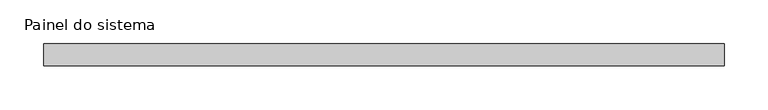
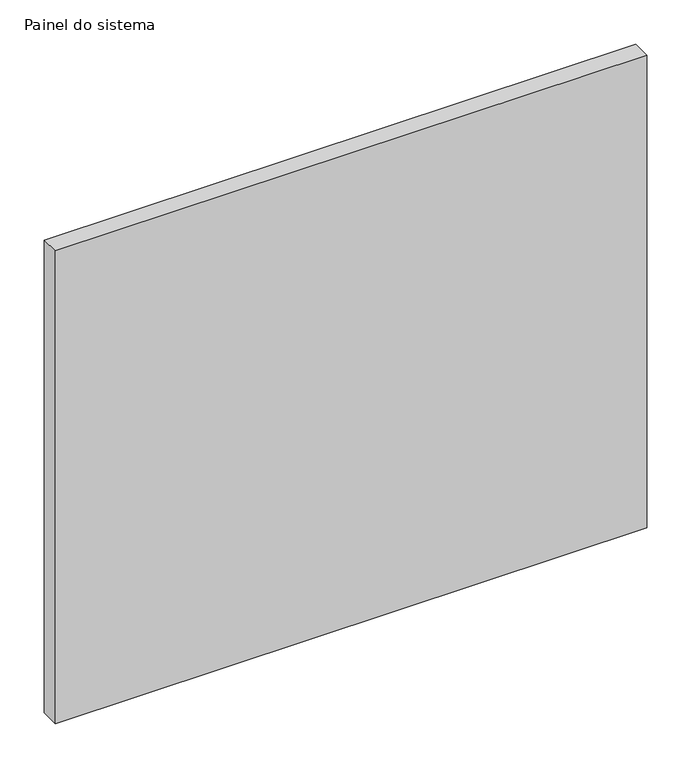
"""IFC4 building model written with IfcOpenShell, lengths in millimetres: plate geometry, Painel do sistema : Envidraçado."""

from ifc_helpers import new_model, si_unit, origin, origin_with_axes, place, context, project, spatial, polyline, outline, extrude, source, transform, mapped, element, save


def painel_do_sistema_72d91f61(model_context):
    return source(origin(), model_context, "Body", "SweptSolid", [
        extrude(outline(polyline([(387.5, 24.5), (-387.5, 24.5), (-387.5, 49.5), (387.5, 49.5), (387.5, 24.5)])), origin_with_axes(), (0.0, 0.0, 1.0), 655.0),
    ])


if __name__ == "__main__":
    model = new_model("IFC4")
    model_context = context("Model", 3, world=origin())
    ifc_project = project(units=[si_unit("LENGTHUNIT", "METRE", prefix="MILLI")], contexts=[model_context])
    site = spatial("IfcSite", under=ifc_project)
    building = spatial("IfcBuilding", under=site)
    placement = place(None, origin())
    painel_do_sistema_shape = painel_do_sistema_72d91f61(model_context)
    element("IfcPlate", 1, ObjectType="Painel do sistema : Envidraçado", at=placement, inside=building, context=model_context, shape_type="MappedRepresentation", body=[
        mapped(painel_do_sistema_shape, transform((0.0, 0.0, 0.0), x_axis=(1.0, 0.0, 0.0), y_axis=(0.0, 1.0, 0.0), z_axis=(0.0, 0.0, 1.0))),
    ])
    save(model, "model.ifc")
